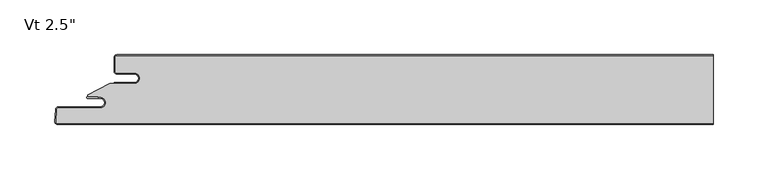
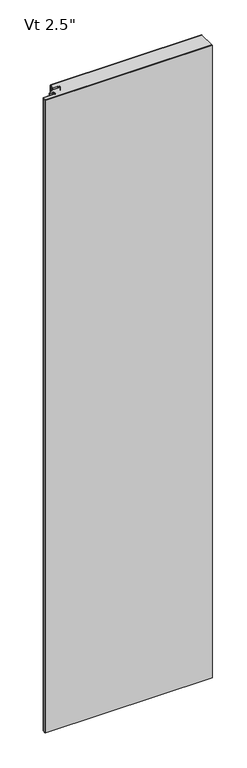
"""IFC4 building model written with IfcOpenShell, lengths in millimetres: plate geometry."""

from ifc_helpers import new_model, si_unit, point, frame_2d, origin, origin_with_axes, place, context, project, spatial, polyline, circle_curve, trimmed, segment, composite_curve, outline, extrude, source, transform, mapped, element, save


def plate_31e9bed9(model_context):
    return source(origin(), model_context, "Body", "SweptSolid", [
        extrude(outline(composite_curve([segment(polyline([(-253.7499998, -16.4625), (-269.6249998, -16.4625)]), True, "CONTINUOUS"), segment(trimmed(circle_curve(frame_2d((-269.6249998, -15.08125)), 1.38125), [point((-269.6249998, -16.4625))], [point((-271.0062498, -15.08125))], False, "CARTESIAN"), True, "CONTINUOUS"), segment(polyline([(-271.0062498, -15.08125), (-271.0062498, -2.38125)]), True, "CONTINUOUS"), segment(trimmed(circle_curve(frame_2d((-269.6249998, -2.38125)), 1.38125), [point((-271.0062498, -2.38125))], [point((-269.6249998, -1.0))], False, "CARTESIAN"), True, "CONTINUOUS"), segment(polyline([(-269.6249998, -1.0), (272.7999998, -1.0), (272.7999998, -62.5), (-323.4862034, -62.5)]), True, "CONTINUOUS"), segment(trimmed(circle_curve(frame_2d((-323.4862034, -61.11875)), 1.38125), [point((-323.4862034, -62.5))], [point((-324.8655604, -61.046461))], False, "CARTESIAN"), True, "CONTINUOUS"), segment(polyline([(-324.8655604, -61.046461), (-324.283179, -49.933961)]), True, "CONTINUOUS"), segment(trimmed(circle_curve(frame_2d((-322.9038219, -50.00625)), 1.38125), [point((-324.283179, -49.933961))], [point((-322.9038219, -48.625))], False, "CARTESIAN"), True, "CONTINUOUS"), segment(polyline([(-322.9038219, -48.625), (-284.7205173, -48.625)]), True, "CONTINUOUS"), segment(trimmed(circle_curve(frame_2d((-284.7205173, -43.65625)), 4.96875), [point((-284.7205173, -48.625))], [point((-284.7205173, -38.6875))], True, "CARTESIAN"), True, "CONTINUOUS"), segment(polyline([(-284.7205173, -38.6875), (-286.3080173, -38.89375), (-286.3080173, -38.1), (-295.8187498, -38.1), (-295.8187498, -36.5326309), (-275.9323421, -26.4), (-253.7499998, -26.4)]), True, "CONTINUOUS"), segment(trimmed(circle_curve(frame_2d((-253.7499998, -21.43125)), 4.96875), [point((-253.7499998, -26.4))], [point((-253.7499998, -16.4625))], True, "CARTESIAN"), True, "CONTINUOUS")], self_intersect=False)), origin_with_axes(), (0.0, 0.0, 1.0), 2400.0),
        extrude(outline(composite_curve([segment(polyline([(-272.0062498, -25.4), (-253.7499998, -25.4)]), True, "CONTINUOUS"), segment(trimmed(circle_curve(frame_2d((-253.7499998, -21.43125)), 3.96875), [point((-253.7499998, -25.4))], [point((-253.7499998, -17.4625))], True, "CARTESIAN"), True, "CONTINUOUS"), segment(polyline([(-253.7499998, -17.4625), (-269.6249998, -17.4625)]), True, "CONTINUOUS"), segment(trimmed(circle_curve(frame_2d((-269.6249998, -15.08125)), 2.38125), [point((-269.6249998, -17.4625))], [point((-272.0062498, -15.08125))], False, "CARTESIAN"), True, "CONTINUOUS"), segment(polyline([(-272.0062498, -15.08125), (-272.0062498, -2.38125)]), True, "CONTINUOUS"), segment(trimmed(circle_curve(frame_2d((-269.6249998, -2.38125)), 2.38125), [point((-272.0062498, -2.38125))], [point((-269.6249998, 0.0))], False, "CARTESIAN"), True, "CONTINUOUS"), segment(polyline([(-269.6249998, 0.0), (272.7999998, 0.0), (272.7999998, -1.0), (-269.6249998, -1.0)]), True, "CONTINUOUS"), segment(trimmed(circle_curve(frame_2d((-269.6249998, -2.38125)), 1.38125), [point((-269.6249998, -1.0))], [point((-271.0062498, -2.38125))], True, "CARTESIAN"), True, "CONTINUOUS"), segment(polyline([(-271.0062498, -2.38125), (-271.0062498, -15.08125)]), True, "CONTINUOUS"), segment(trimmed(circle_curve(frame_2d((-269.6249998, -15.08125)), 1.38125), [point((-271.0062498, -15.08125))], [point((-269.6249998, -16.4625))], True, "CARTESIAN"), True, "CONTINUOUS"), segment(polyline([(-269.6249998, -16.4625), (-253.7499998, -16.4625)]), True, "CONTINUOUS"), segment(trimmed(circle_curve(frame_2d((-253.7499998, -21.43125)), 4.96875), [point((-253.7499998, -16.4625))], [point((-253.7499998, -26.4))], False, "CARTESIAN"), True, "CONTINUOUS"), segment(polyline([(-253.7499998, -26.4), (-272.0062498, -26.4), (-272.0062498, -25.4)]), True, "CONTINUOUS")], self_intersect=False)), origin_with_axes(), (0.0, 0.0, 1.0), 2400.0),
        extrude(outline(composite_curve([segment(polyline([(-296.0314548, -38.1), (-286.3080173, -38.1), (-286.3080173, -38.89375), (-284.7205173, -38.6875)]), True, "CONTINUOUS"), segment(trimmed(circle_curve(frame_2d((-284.7205173, -43.65625)), 4.96875), [point((-284.7205173, -38.6875))], [point((-284.7205173, -48.625))], False, "CARTESIAN"), True, "CONTINUOUS"), segment(polyline([(-284.7205173, -48.625), (-322.9038219, -48.625)]), True, "CONTINUOUS"), segment(trimmed(circle_curve(frame_2d((-322.9038219, -50.00625)), 1.38125), [point((-322.9038219, -48.625))], [point((-324.283179, -49.933961))], True, "CARTESIAN"), True, "CONTINUOUS"), segment(polyline([(-324.283179, -49.933961), (-324.8655604, -61.046461)]), True, "CONTINUOUS"), segment(trimmed(circle_curve(frame_2d((-323.4862034, -61.11875)), 1.38125), [point((-324.8655604, -61.046461))], [point((-323.4862034, -62.5))], True, "CARTESIAN"), True, "CONTINUOUS"), segment(polyline([(-323.4862034, -62.5), (272.7999998, -62.5), (272.7999998, -63.5), (-323.4862034, -63.5)]), True, "CONTINUOUS"), segment(trimmed(circle_curve(frame_2d((-323.4862034, -61.11875)), 2.38125), [point((-323.4862034, -63.5))], [point((-325.8641899, -60.994125))], False, "CARTESIAN"), True, "CONTINUOUS"), segment(polyline([(-325.8641899, -60.994125), (-325.2818085, -49.881625)]), True, "CONTINUOUS"), segment(trimmed(circle_curve(frame_2d((-322.9038219, -50.00625)), 2.38125), [point((-325.2818085, -49.881625))], [point((-322.9038219, -47.625))], False, "CARTESIAN"), True, "CONTINUOUS"), segment(polyline([(-322.9038219, -47.625), (-284.7205173, -47.625)]), True, "CONTINUOUS"), segment(trimmed(circle_curve(frame_2d((-284.7205173, -43.65625)), 3.96875), [point((-284.7205173, -47.625))], [point((-284.7205173, -39.6875))], True, "CARTESIAN"), True, "CONTINUOUS"), segment(polyline([(-284.7205173, -39.6875), (-296.0314548, -39.6875)]), True, "CONTINUOUS"), segment(trimmed(circle_curve(frame_2d((-296.0314548, -38.89375)), 0.79375), [point((-296.0314548, -39.6875))], [point((-296.0314548, -38.1))], False, "CARTESIAN"), True, "CONTINUOUS")], self_intersect=False)), origin_with_axes(), (0.0, 0.0, 1.0), 2400.0),
    ])


if __name__ == "__main__":
    model = new_model("IFC4")
    model_context = context("Model", 3, world=origin())
    ifc_project = project(units=[si_unit("LENGTHUNIT", "METRE", prefix="MILLI")], contexts=[model_context])
    site = spatial("IfcSite", under=ifc_project)
    building = spatial("IfcBuilding", under=site)
    placement = place(None, origin())
    plate_shape = plate_31e9bed9(model_context)
    element("IfcPlate", 1, ObjectType="KIP-36-DWTR-R19-CP-Vt-F : Vt 2.5\"", at=placement, inside=building, context=model_context, shape_type="MappedRepresentation", body=[
        mapped(plate_shape, transform((0.0, 0.0, 0.0), x_axis=(1.0, 0.0, 0.0), y_axis=(0.0, 1.0, 0.0), z_axis=(0.0, 0.0, 1.0))),
    ])
    save(model, "model.ifc")
